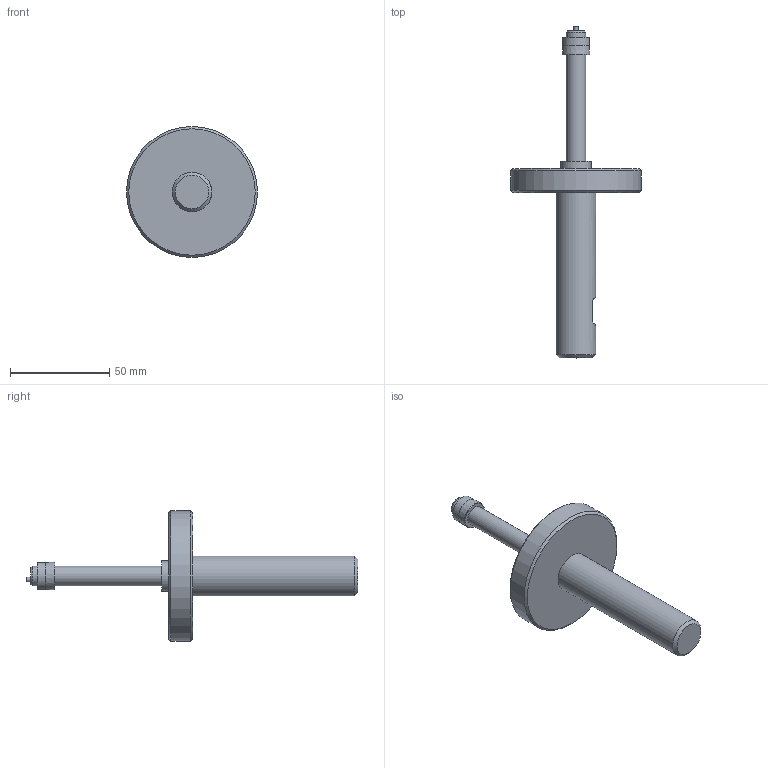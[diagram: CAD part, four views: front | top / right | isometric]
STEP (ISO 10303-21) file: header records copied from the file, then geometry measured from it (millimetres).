
FILE_DESCRIPTION (( 'STEP AP203' ), '1' );
FILE_NAME ('AF38-SIMPLE - AF38-10.00M-14.00M.step', '2025-01-20T19:57:07', ( '' ), ( '' ), 'SwSTEP 2.0', 'SolidWorks 2024', '' );
FILE_SCHEMA (( 'CONFIG_CONTROL_DESIGN' ));
Length unit declared in the file: inch
Products named in the file (1): AF38-SIMPLE - AF38-10.00M-14.00M
Bounding box: 66.04 x 167.39 x 66.04 mm (x, y, z)
Volume: 73758 mm3; surface area: 16744.2 mm2
Topology: 1 solids, 1 shells, 24 faces, 40 edges, 25 vertices
Faces by surface type: plane 11, cylinder 7, cone 5, torus 1
Full cylindrical faces by diameter (mm): 2.286 x1, 9.881 x2, 13.494 x1, 15.24 x1, 20 x1, 66.04 x1
Entity records: 569 total; most frequent: DIRECTION 94, CARTESIAN_POINT 81, ORIENTED_EDGE 52, AXIS2_PLACEMENT_3D 45, EDGE_LOOP 44, FACE_OUTER_BOUND 32, EDGE_CURVE 26, VERTEX_POINT 24
